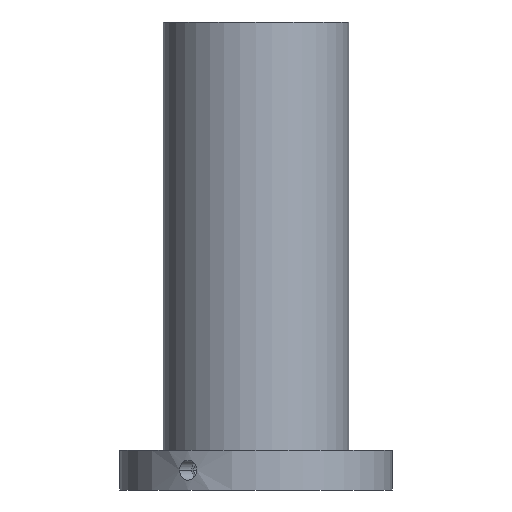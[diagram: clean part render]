
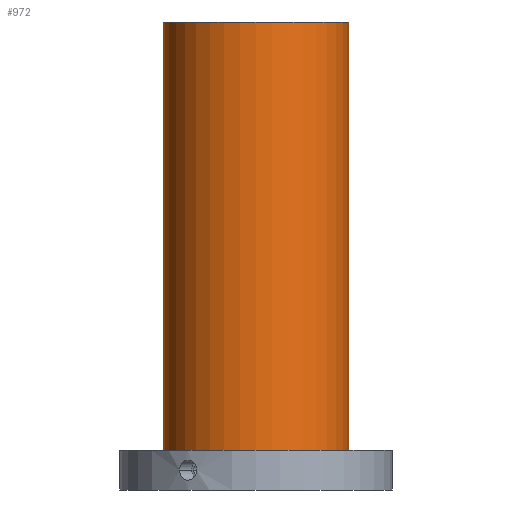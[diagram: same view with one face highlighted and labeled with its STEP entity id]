
A CAD part, front view. The second image highlights one B-rep face of the part: STEP entity #972.
In plain terms, the highlighted cylindrical face has radius 37.5 mm (diameter 75 mm), a partial arc.
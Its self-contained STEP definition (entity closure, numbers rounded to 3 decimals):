
#106=CARTESIAN_POINT('',(0.,0.,189.));
#107=DIRECTION('',(0.,0.,1.));
#108=DIRECTION('',(-1.,0.,0.));
#109=AXIS2_PLACEMENT_3D('',#106,#107,#108);
#191=CARTESIAN_POINT('',(0.,0.,16.));
#192=DIRECTION('',(0.,0.,-1.));
#193=DIRECTION('',(1.,0.,0.));
#194=AXIS2_PLACEMENT_3D('',#191,#192,#193);
#379=DIRECTION('',(0.,0.,-1.));
#380=VECTOR('',#379,173.);
#381=CARTESIAN_POINT('',(-37.5,0.,189.));
#382=LINE('',#381,#380);
#383=DIRECTION('',(0.,0.,-1.));
#384=VECTOR('',#383,173.);
#385=CARTESIAN_POINT('',(37.5,0.,189.));
#386=LINE('',#385,#384);
#411=CARTESIAN_POINT('',(-37.5,0.,16.));
#412=CARTESIAN_POINT('',(37.5,0.,16.));
#413=VERTEX_POINT('',#411);
#414=VERTEX_POINT('',#412);
#499=CARTESIAN_POINT('',(37.5,0.,189.));
#500=VERTEX_POINT('',#499);
#501=CARTESIAN_POINT('',(-37.5,0.,189.));
#502=VERTEX_POINT('',#501);
#961=CARTESIAN_POINT('',(0.,0.,221.));
#962=DIRECTION('',(0.,0.,-1.));
#963=DIRECTION('',(-1.,0.,0.));
#964=AXIS2_PLACEMENT_3D('',#961,#962,#963);
#965=CYLINDRICAL_SURFACE('',#964,37.5);
#966=ORIENTED_EDGE('',*,*,#681,.T.);
#967=ORIENTED_EDGE('',*,*,#630,.F.);
#968=ORIENTED_EDGE('',*,*,#610,.T.);
#969=ORIENTED_EDGE('',*,*,#627,.T.);
#970=EDGE_LOOP('',(#966,#967,#968,#969));
#971=FACE_OUTER_BOUND('',#970,.F.);
#972=ADVANCED_FACE('',(#971),#965,.T.);
#110=CIRCLE('',#109,37.5);
#195=CIRCLE('',#194,37.5);
#610=EDGE_CURVE('',#502,#500,#110,.T.);
#627=EDGE_CURVE('',#500,#414,#386,.T.);
#630=EDGE_CURVE('',#502,#413,#382,.T.);
#681=EDGE_CURVE('',#414,#413,#195,.T.);
